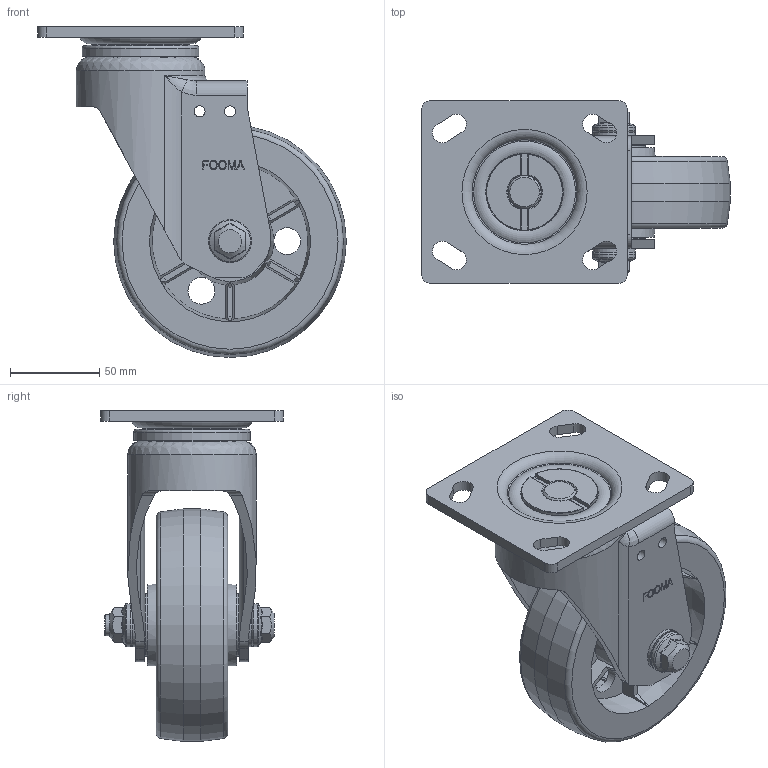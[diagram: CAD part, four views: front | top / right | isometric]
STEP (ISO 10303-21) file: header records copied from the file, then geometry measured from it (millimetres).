
FILE_DESCRIPTION((''),'2;1');
FILE_NAME('C:\Documents and Settings\Administrator\바탕 화면\3D STEP\GH-SERIES\GH-130\GH-130A-SF.stp','2010-12-27T14:24:49',('Administrator'),(''),'Autodesk Inventor 2009','Autodesk Inventor 2009','');
FILE_SCHEMA(('AUTOMOTIVE_DESIGN { 1 0 10303 214 1 1 1 1 }'));
Length unit declared in the file: millimetre
Products named in the file (1): GH-130A-SF
Bounding box: 172.5 x 102 x 184.98 mm (x, y, z)
Volume: 444318.3 mm3; surface area: 164717.9 mm2
Topology: 9 solids, 11 shells, 564 faces, 1480 edges, 964 vertices
Faces by surface type: bspline 203, plane 199, cylinder 80, cone 45, torus 37
Full cylindrical faces by diameter (mm): 6.1 x4, 12 x1, 15 x5, 15.2 x2, 18.5 x2, 21.5 x1, 22 x1, 24 x4, 29.9 x1, 30 x1, 30.5 x2, 31.615 x2, 35 x2, 35.02 x2, 44 x2, 48.961 x2, 61 x1, 62 x1, 63.14 x1, 65.14 x1, 72 x1, 130 x1
Entity records: 20464 total; most frequent: CARTESIAN_POINT 8329, ORIENTED_EDGE 2694, DIRECTION 1976, EDGE_CURVE 1347, VERTEX_POINT 937, EDGE_LOOP 748, AXIS2_PLACEMENT_3D 741, FACE_OUTER_BOUND 562
